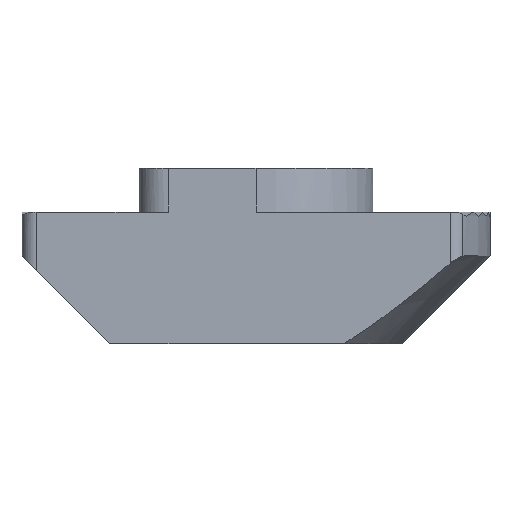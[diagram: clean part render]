
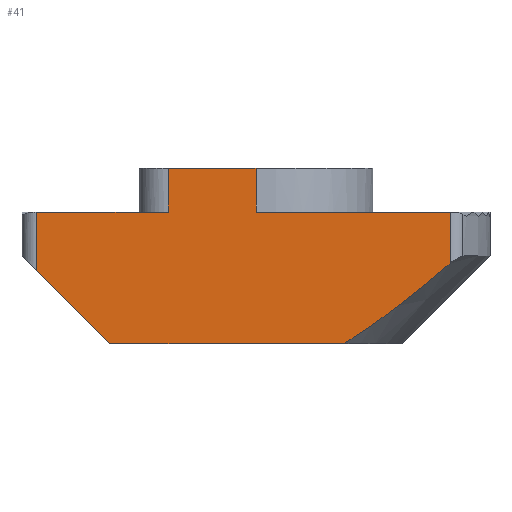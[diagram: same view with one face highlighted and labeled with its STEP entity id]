
A CAD part, front view. The second image highlights one B-rep face of the part: STEP entity #41.
In plain terms, the highlighted planar face has unit normal (0, -1, 0).
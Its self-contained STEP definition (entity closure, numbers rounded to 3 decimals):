
#4 = EDGE_CURVE ( 'NONE', #1344, #1682, #1266, .T. ) ;
#21 = EDGE_CURVE ( 'NONE', #1234, #1344, #1376, .T. ) ;
#41 = ADVANCED_FACE ( 'NONE', ( #1451 ), #1016, .F. ) ;
#65 = EDGE_CURVE ( 'NONE', #1673, #1821, #1477, .T. ) ;
#71 = EDGE_CURVE ( 'NONE', #1673, #1284, #1413, .T. ) ;
#109 = EDGE_CURVE ( 'NONE', #1284, #1848, #1363, .T. ) ;
#126 = EDGE_CURVE ( 'NONE', #1234, #1821, #1470, .T. ) ;
#139 = EDGE_CURVE ( 'NONE', #1346, #1378, #1182, .T. ) ;
#160 = EDGE_CURVE ( 'NONE', #1682, #1584, #1515, .T. ) ;
#167 = EDGE_CURVE ( 'NONE', #1378, #1584, #1260, .T. ) ;
#179 = VECTOR ( 'NONE', #548, 1000. ) ;
#197 = AXIS2_PLACEMENT_3D ( 'NONE', #988, #1094, #547 ) ;
#232 = VECTOR ( 'NONE', #479, 1000. ) ;
#279 = VECTOR ( 'NONE', #944, 1000. ) ;
#287 = VECTOR ( 'NONE', #1176, 1000. ) ;
#320 = VECTOR ( 'NONE', #995, 1000. ) ;
#321 = VECTOR ( 'NONE', #1089, 1000. ) ;
#332 = VECTOR ( 'NONE', #1005, 1000. ) ;
#333 = VECTOR ( 'NONE', #851, 1000. ) ;
#337 = VECTOR ( 'NONE', #637, 1000. ) ;
#380 = EDGE_CURVE ( 'NONE', #1848, #1346, #1398, .T. ) ;
#434 = CARTESIAN_POINT ( 'NONE',  ( 6.633, -4., 2.746 ) ) ;
#435 = CARTESIAN_POINT ( 'NONE',  ( 6.056, -4., 2.251 ) ) ;
#437 = CARTESIAN_POINT ( 'NONE',  ( 5.471, -4., 1.767 ) ) ;
#438 = CARTESIAN_POINT ( 'NONE',  ( 4.27, -4., 0.838 ) ) ;
#439 = CARTESIAN_POINT ( 'NONE',  ( 3.655, -4., 0.393 ) ) ;
#440 = CARTESIAN_POINT ( 'NONE',  ( 3., -4., 0. ) ) ;
#463 = CARTESIAN_POINT ( 'NONE',  ( -4., -4., 6. ) ) ;
#479 = DIRECTION ( 'NONE',  ( 1., 0., 0. ) ) ;
#488 = CARTESIAN_POINT ( 'NONE',  ( -8., -4., 4.5 ) ) ;
#547 = DIRECTION ( 'NONE',  ( 0., 0., 1. ) ) ;
#548 = DIRECTION ( 'NONE',  ( 0., 0., -1. ) ) ;
#551 = CARTESIAN_POINT ( 'NONE',  ( -3., -4., 4.5 ) ) ;
#637 = DIRECTION ( 'NONE',  ( 0.707, 0., -0.707 ) ) ;
#638 = CARTESIAN_POINT ( 'NONE',  ( -8., -4., 3. ) ) ;
#701 = CARTESIAN_POINT ( 'NONE',  ( -8., -4., 0. ) ) ;
#756 = CARTESIAN_POINT ( 'NONE',  ( 0., -4., 6. ) ) ;
#851 = DIRECTION ( 'NONE',  ( 0., 0., 1. ) ) ;
#861 = CARTESIAN_POINT ( 'NONE',  ( 6.633, -4., 4.5 ) ) ;
#865 = CARTESIAN_POINT ( 'NONE',  ( -5., -4., 0. ) ) ;
#874 = CARTESIAN_POINT ( 'NONE',  ( -3., -4., 4.5 ) ) ;
#939 = CARTESIAN_POINT ( 'NONE',  ( -8., -4., 4.5 ) ) ;
#944 = DIRECTION ( 'NONE',  ( 1., 0., 0. ) ) ;
#949 = CARTESIAN_POINT ( 'NONE',  ( 0., -4., 4.5 ) ) ;
#954 = CARTESIAN_POINT ( 'NONE',  ( -7.5, -4., 4.5 ) ) ;
#987 = CARTESIAN_POINT ( 'NONE',  ( 6.633, -4., 4.5 ) ) ;
#988 = CARTESIAN_POINT ( 'NONE',  ( -8., -4., 4.5 ) ) ;
#995 = DIRECTION ( 'NONE',  ( 0., 0., -1. ) ) ;
#1002 = CARTESIAN_POINT ( 'NONE',  ( -7.5, -4., 4.5 ) ) ;
#1005 = DIRECTION ( 'NONE',  ( 0., 0., -1. ) ) ;
#1016 = PLANE ( 'NONE',  #197 ) ;
#1069 = CARTESIAN_POINT ( 'NONE',  ( 6.633, -4., 2.746 ) ) ;
#1072 = CARTESIAN_POINT ( 'NONE',  ( 3., -4., 0. ) ) ;
#1073 = CARTESIAN_POINT ( 'NONE',  ( 0., -4., 6. ) ) ;
#1089 = DIRECTION ( 'NONE',  ( 1., 0., 0. ) ) ;
#1094 = DIRECTION ( 'NONE',  ( 0., 1., 0. ) ) ;
#1101 = CARTESIAN_POINT ( 'NONE',  ( -7.5, -4., 2.5 ) ) ;
#1115 = CARTESIAN_POINT ( 'NONE',  ( -3., -4., 6. ) ) ;
#1176 = DIRECTION ( 'NONE',  ( 1., 0., 0. ) ) ;
#1182 = B_SPLINE_CURVE_WITH_KNOTS ( 'NONE', 3,
 ( #440, #439, #438, #437, #435, #434 ),
 .UNSPECIFIED., .F., .F.,
 ( 4, 2, 4 ),
 ( 0., 0.002, 0.005 ),
 .UNSPECIFIED. ) ;
#1234 = VERTEX_POINT ( 'NONE', #1115 ) ;
#1260 = LINE ( 'NONE', #861, #333 ) ;
#1266 = LINE ( 'NONE', #756, #320 ) ;
#1284 = VERTEX_POINT ( 'NONE', #1101 ) ;
#1311 = EDGE_LOOP ( 'NONE', ( #1834, #1802, #1644, #1829, #1668, #1593, #1843, #1767, #1577, #1819 ) ) ;
#1344 = VERTEX_POINT ( 'NONE', #1073 ) ;
#1346 = VERTEX_POINT ( 'NONE', #1072 ) ;
#1363 = LINE ( 'NONE', #638, #337 ) ;
#1376 = LINE ( 'NONE', #463, #321 ) ;
#1378 = VERTEX_POINT ( 'NONE', #1069 ) ;
#1398 = LINE ( 'NONE', #701, #287 ) ;
#1413 = LINE ( 'NONE', #1002, #332 ) ;
#1451 = FACE_OUTER_BOUND ( 'NONE', #1311, .T. ) ;
#1470 = LINE ( 'NONE', #551, #179 ) ;
#1477 = LINE ( 'NONE', #939, #279 ) ;
#1515 = LINE ( 'NONE', #488, #232 ) ;
#1577 = ORIENTED_EDGE ( 'NONE', *, *, #160, .F. ) ;
#1584 = VERTEX_POINT ( 'NONE', #987 ) ;
#1593 = ORIENTED_EDGE ( 'NONE', *, *, #380, .T. ) ;
#1644 = ORIENTED_EDGE ( 'NONE', *, *, #65, .F. ) ;
#1668 = ORIENTED_EDGE ( 'NONE', *, *, #109, .T. ) ;
#1673 = VERTEX_POINT ( 'NONE', #954 ) ;
#1682 = VERTEX_POINT ( 'NONE', #949 ) ;
#1767 = ORIENTED_EDGE ( 'NONE', *, *, #167, .T. ) ;
#1802 = ORIENTED_EDGE ( 'NONE', *, *, #126, .T. ) ;
#1819 = ORIENTED_EDGE ( 'NONE', *, *, #4, .F. ) ;
#1821 = VERTEX_POINT ( 'NONE', #874 ) ;
#1829 = ORIENTED_EDGE ( 'NONE', *, *, #71, .T. ) ;
#1834 = ORIENTED_EDGE ( 'NONE', *, *, #21, .F. ) ;
#1843 = ORIENTED_EDGE ( 'NONE', *, *, #139, .T. ) ;
#1848 = VERTEX_POINT ( 'NONE', #865 ) ;
